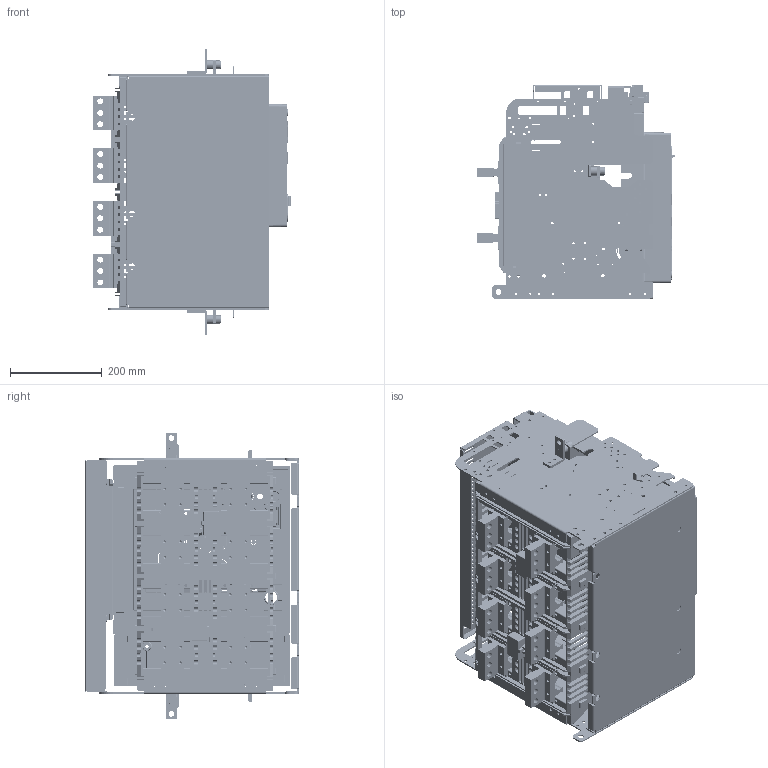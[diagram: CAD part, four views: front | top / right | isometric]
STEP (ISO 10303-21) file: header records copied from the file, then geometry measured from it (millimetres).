
FILE_DESCRIPTION((''),'2;1');
FILE_NAME('HG_09_B_254H_ASM_ASM','2019-03-27T',('HHI'),(''),'PRO/ENGINEER BY PARAMETRIC TECHNOLOGY CORPORATION, 2012453','PRO/ENGINEER BY PARAMETRIC TECHNOLOGY CORPORATION, 2012453','');
FILE_SCHEMA(('CONFIG_CONTROL_DESIGN'));
Products named in the file (43): PRT0070; PRT0071; ASM0022_ASM; MAIN_SC_DR_BASE_404_17; MANIFOLD_SOLID_BREP_26748; MANIFOLD_SOLID_BREP_26968; ASM0023_ASM; SC_CO_JACK_DFC_404_17; SC-MAIN-TERMINAL-MOLD-404_13; PRT0072; PRT0073; PRT0074; PRT0075; PRT0076; PRT0078; PRT0079; PRT0080; PRT0081; ASM0025_ASM; PRT0082; PRT0083; PRT0084; ASM0026_ASM; PRT0087; ASM0024_ASM; SC_MAIN_FRONT_COVER_40N_5; COVER404_ASSY_ASM_7_ASM; U_ARC_SHIELD_404_2; PRT0088; PRT0089; PRT0090; PRT0091; ASM0027_ASM; PRT0092; PRT0093; FIX_BLOCK_CRADLE_6; BOLT_5; ASM0028_ASM; B204_254H_ASM_12_ASM; HG_FRONT_COVER_40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
Assembly tree (56 placements, depth 6):
  HG_09_B_254H_ASM_ASM
    B204_254H_ASM_12_ASM
      ASM0022_ASM
        PRT0070
        PRT0071
      MAIN_SC_DR_BASE_404_17
      ASM0023_ASM
        MANIFOLD_SOLID_BREP_26748
        MANIFOLD_SOLID_BREP_26968
      SC_CO_JACK_DFC_404_17
      SC-MAIN-TERMINAL-MOLD-404_13
      PRT0072
      PRT0073
      PRT0074  x8
      PRT0075  x8
      COVER404_ASSY_ASM_7_ASM
        ASM0024_ASM
          PRT0076
          ASM0025_ASM
            PRT0078
            PRT0079
            PRT0080
            PRT0081
          ASM0026_ASM
            PRT0082
            PRT0083
            PRT0084
          PRT0087
        SC_MAIN_FRONT_COVER_40N_5
      U_ARC_SHIELD_404_2
      ASM0027_ASM
        PRT0088
        PRT0089
        PRT0090
        PRT0091
      ASM0028_ASM
        PRT0092
        PRT0093
        FIX_BLOCK_CRADLE_6
        BOLT_5
    HG_FRONT_COVER_40
    4AT-06477S03
    4AT-06477S04
Bounding box: 430.03 x 466.35 x 626 mm (x, y, z)
Volume: 6925532.4 mm3; surface area: 3975981.3 mm2
Topology: 47 solids, 47 shells, 15552 faces, 45700 edges, 29788 vertices
Faces by surface type: plane 11316, cylinder 3467, torus 251, sphere 164, extrusion 141, cone 132, bspline 81
Entity records: 495375 total; most frequent: CARTESIAN_POINT 94280, ORIENTED_EDGE 86730, DIRECTION 78726, EDGE_CURVE 43365, VECTOR 36156, LINE 36015, VERTEX_POINT 28276, AXIS2_PLACEMENT_3D 21285
